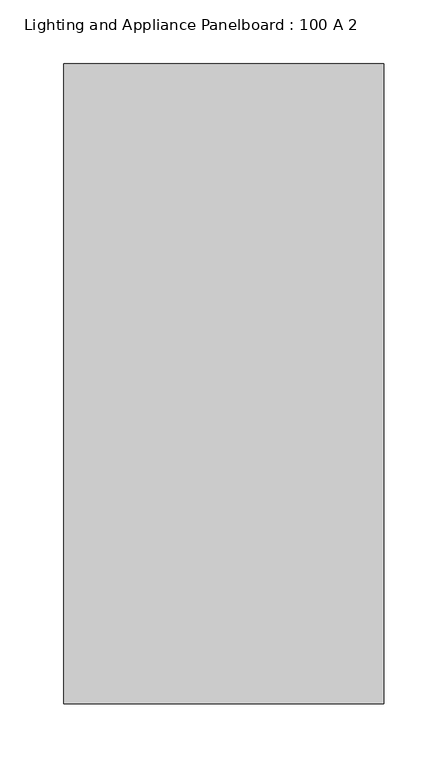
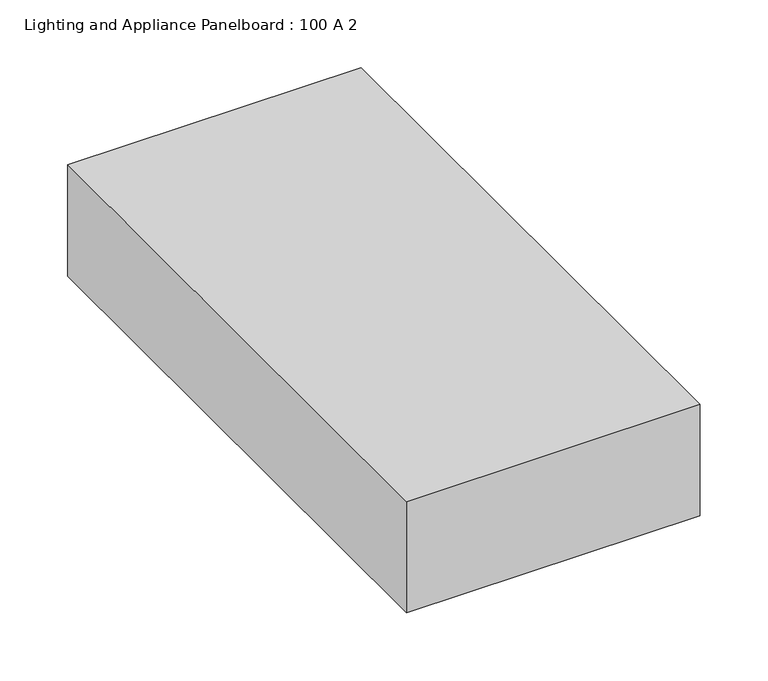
"""IFC4 building model written with IfcOpenShell, lengths in millimetres: proxy geometry, Lighting and Appliance Panelboard : 100 A 2."""

from ifc_helpers import new_model, si_unit, frame, origin, place, context, project, spatial, polyline, outline, extrude, source, transform, mapped, element, save


def lighting_and_appliance_panelboard_100_a_2_c7281d6f(model_context):
    return source(origin(), model_context, "Body", "SweptSolid", [
        extrude(outline(polyline([(125.0, -169.1), (125.0, -669.1), (-125.0, -669.1), (-125.0, -169.1), (125.0, -169.1)])), frame((0.0, 0.0, -100.0), z_axis=(0.0, 0.0, 1.0), x_axis=(1.0, 0.0, 0.0)), (0.0, 0.0, 1.0), 100.0),
    ])


if __name__ == "__main__":
    model = new_model("IFC4")
    model_context = context("Model", 3, world=origin())
    ifc_project = project(units=[si_unit("LENGTHUNIT", "METRE", prefix="MILLI")], contexts=[model_context])
    site = spatial("IfcSite", under=ifc_project)
    building = spatial("IfcBuilding", under=site)
    placement = place(None, origin())
    lighting_and_appliance_panelboard_100_a_2_shape = lighting_and_appliance_panelboard_100_a_2_c7281d6f(model_context)
    element("IfcBuildingElementProxy", 1, Name="Lighting and Appliance Panelboard : 100 A 2", ObjectType="Lighting and Appliance Panelboard : 100 A 2", at=placement, inside=building, context=model_context, shape_type="MappedRepresentation", body=[
        mapped(lighting_and_appliance_panelboard_100_a_2_shape, transform((0.0, 0.0, 0.0), x_axis=(1.0, 0.0, 0.0), y_axis=(0.0, 1.0, 0.0), z_axis=(0.0, 0.0, 1.0))),
    ])
    save(model, "model.ifc")
